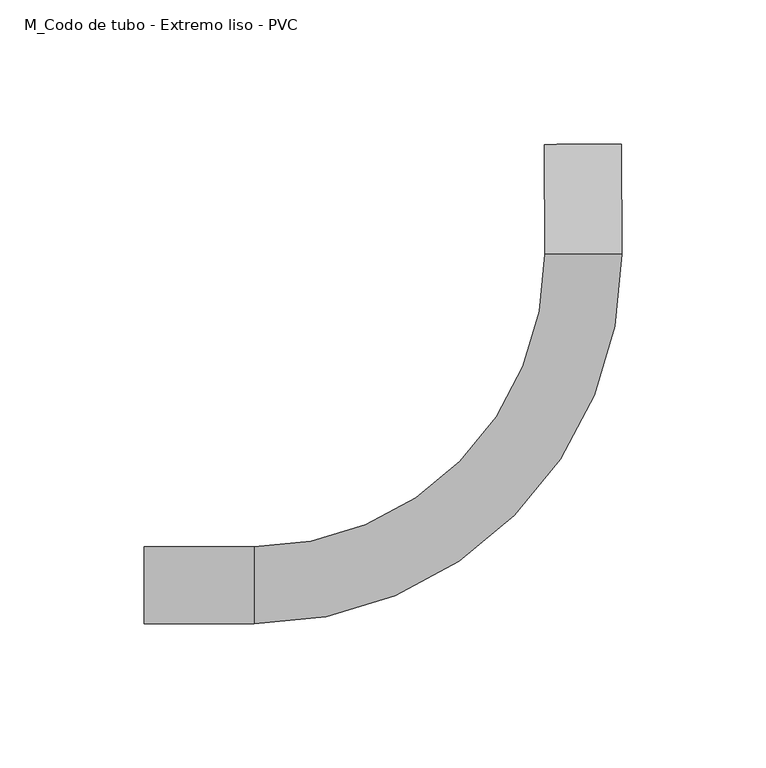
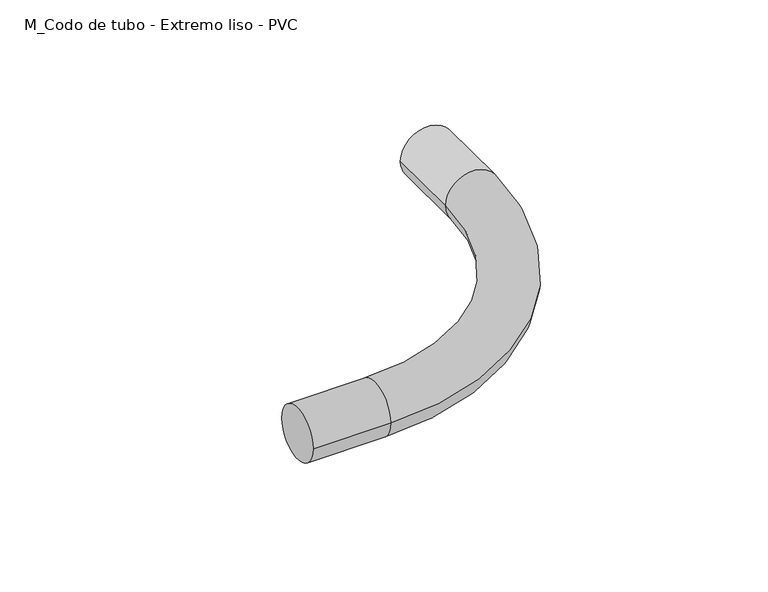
"""IFC4 building model written with IfcOpenShell, lengths in millimetres: cable carrier fitting geometry, M_Codo de tubo - Extremo liso - PVC : CODO POTENCIA."""

import ifcopenshell
import ifcopenshell.guid

model = None  # the IFC model being written
_history = None  # IfcOwnerHistory: only IFC2X3 demands one
_inside = {}  # id of a spatial element -> (the spatial element, [elements in it])
_under = {}  # id of a project, library or spatial element -> (it, [spatial elements below it])
_declared = {}  # id of a project -> (the project, [libraries it declares])
_typed = {}  # id of a type object -> (the type object, [elements of that type])
_made_of = {}  # id of a material, layer set ... -> (it, [elements and type objects made of it])


def new_model(schema):
    """Start an empty IFC model of exactly this schema.

    Asked for "IFC4X3", IfcOpenShell would pick the latest addendum, in which some entities
    have other attributes; the version numbers below select the first issue.
    IFC2X3 requires an IfcOwnerHistory on every rooted entity: one is made here for all.
    """
    global model, _history
    if schema == "IFC4X3":
        model = ifcopenshell.file(schema_version=(4, 3, 0, 0))
    else:
        model = ifcopenshell.file(schema=schema)
    _inside.clear()
    _under.clear()
    _declared.clear()
    _typed.clear()
    _made_of.clear()
    _history = None
    if model.schema == "IFC2X3":
        org = make("IfcOrganization", Name="unknown")
        user = make(
            "IfcPersonAndOrganization",
            ThePerson=make("IfcPerson", FamilyName="unknown"),
            TheOrganization=org,
        )
        app = make(
            "IfcApplication",
            ApplicationDeveloper=org,
            Version="unknown",
            ApplicationFullName="unknown",
            ApplicationIdentifier="unknown",
        )
        _history = make(
            "IfcOwnerHistory",
            OwningUser=user,
            OwningApplication=app,
            ChangeAction="ADDED",
            CreationDate=0,
        )
    return model


def make(cls, **values):
    """One entity of the class cls with the attributes given. An attribute that is None is left unset."""
    return model.create_entity(
        cls, **{name: value for name, value in values.items() if value is not None}
    )


def rooted(cls, **values):
    """An entity with a GlobalId (a new one), such as an element, a storey or a relation."""
    return make(cls, GlobalId=ifcopenshell.guid.new(), OwnerHistory=_history, **values)


def si_unit(unit_type, name, prefix=None):
    """IfcSIUnit, for example si_unit("LENGTHUNIT", "METRE", prefix="MILLI")."""
    return make("IfcSIUnit", UnitType=unit_type, Prefix=prefix, Name=name)


def assignment(units):
    """IfcUnitAssignment: the units of a project."""
    return None if units is None else make("IfcUnitAssignment", Units=units)


def point(xyz):
    """IfcCartesianPoint."""
    return None if xyz is None else make("IfcCartesianPoint", Coordinates=xyz)


def direction(xyz):
    """IfcDirection."""
    return None if xyz is None else make("IfcDirection", DirectionRatios=xyz)


def frame(location, z_axis=None, x_axis=None):
    """IfcAxis2Placement3D, a coordinate frame: its origin and axes. An axis left out is left unset."""
    return make(
        "IfcAxis2Placement3D",
        Location=point(location),
        Axis=direction(z_axis),
        RefDirection=direction(x_axis),
    )


def origin():
    """The frame at (0, 0, 0) with its axes left unset."""
    return frame((0.0, 0.0, 0.0))


def place(relative_to, where):
    """IfcLocalPlacement: puts the frame where relative to a parent placement (None: the world)."""
    return make(
        "IfcLocalPlacement", PlacementRelTo=relative_to, RelativePlacement=where
    )


def context(
    kind, dimensions, precision=None, world=None, true_north=None, identifier=None
):
    """IfcGeometricRepresentationContext, for example the 3D "Model" context."""
    return make(
        "IfcGeometricRepresentationContext",
        ContextIdentifier=identifier,
        ContextType=kind,
        CoordinateSpaceDimension=dimensions,
        Precision=precision,
        WorldCoordinateSystem=world,
        TrueNorth=true_north,
    )


def project(units=None, contexts=None):
    """IfcProject with its units and contexts."""
    return rooted(
        "IfcProject",
        Name="project",
        RepresentationContexts=contexts,
        UnitsInContext=assignment(units),
    )


def spatial(cls, under=None, at=None, **own):
    """A site, building, storey or space (cls), placed at a placement, below another one or the project."""
    s = rooted(cls, ObjectPlacement=at, **own)
    if under is not None:
        _under.setdefault(under.id(), (under, []))[1].append(s)
    return s


def circle_curve(where, radius):
    """IfcCircle in the frame where."""
    return make("IfcCircle", Position=where, Radius=radius)


def ellipse_curve(where, semi_axis1, semi_axis2):
    """IfcEllipse in the frame where."""
    return make(
        "IfcEllipse", Position=where, SemiAxis1=semi_axis1, SemiAxis2=semi_axis2
    )


def trimmed(basis, trim1, trim2, sense, master):
    """IfcTrimmedCurve: the piece of a basis curve between two trims."""
    return make(
        "IfcTrimmedCurve",
        BasisCurve=basis,
        Trim1=trim1,
        Trim2=trim2,
        SenseAgreement=sense,
        MasterRepresentation=master,
    )


def shape(context_of_items, identifier, shape_type, items):
    """IfcShapeRepresentation: the items that make up one representation, for example the "Body"."""
    return make(
        "IfcShapeRepresentation",
        ContextOfItems=context_of_items,
        RepresentationIdentifier=identifier,
        RepresentationType=shape_type,
        Items=items,
    )


def source(mapping_origin, context_of_items, identifier, shape_type, items):
    """IfcRepresentationMap: a shape defined once, which mapped items show again and again."""
    return make(
        "IfcRepresentationMap",
        MappingOrigin=mapping_origin,
        MappedRepresentation=shape(context_of_items, identifier, shape_type, items),
    )


def transform(
    local_origin,
    x_axis=None,
    y_axis=None,
    z_axis=None,
    scale=None,
    scale2=None,
    scale3=None,
    uniform=True,
):
    """IfcCartesianTransformationOperator3D, or its non-uniform kind. x_axis, y_axis, z_axis: its Axis1, 2, 3."""
    if uniform:
        return make(
            "IfcCartesianTransformationOperator3D",
            Axis1=direction(x_axis),
            Axis2=direction(y_axis),
            LocalOrigin=point(local_origin),
            Scale=scale,
            Axis3=direction(z_axis),
        )
    return make(
        "IfcCartesianTransformationOperator3DnonUniform",
        Axis1=direction(x_axis),
        Axis2=direction(y_axis),
        LocalOrigin=point(local_origin),
        Scale=scale,
        Axis3=direction(z_axis),
        Scale2=scale2,
        Scale3=scale3,
    )


def mapped(mapping_source, mapping_target):
    """IfcMappedItem: shows the shape of a source again, moved by a transform."""
    return make(
        "IfcMappedItem", MappingSource=mapping_source, MappingTarget=mapping_target
    )


def made_of(thing, what):
    """Note that an element or type object is made of a material, layer set ...; save() writes the relation."""
    if what is not None:
        _made_of.setdefault(what.id(), (what, []))[1].append(thing)
    return thing


def element(
    cls,
    number,
    at=None,
    inside=None,
    cuts=None,
    type_object=None,
    material=None,
    context=None,
    identifier="Body",
    shape_type=None,
    held_by="IfcProductDefinitionShape",
    body=None,
    shapes=None,
    **own,
):
    """One element of the class cls, such as IfcWall. Its Tag is "e" and its number.

    at: its placement. inside: the storey or other place that contains it. cuts: it is an
    opening in that element (IfcRelVoidsElement). A single representation is given by context,
    identifier, shape_type and body (its items); several are given by shapes. held_by: the class
    of the entity that holds the representations. save() writes the other relations.
    """
    e = rooted(cls, Tag="e%d" % number, ObjectPlacement=at, **own)
    if body is not None:
        shapes = [shape(context, identifier, shape_type, body)]
    if shapes is not None:
        e.Representation = make(held_by, Representations=shapes)
    if inside is not None:
        _inside.setdefault(inside.id(), (inside, []))[1].append(e)
    if cuts is not None:
        rooted(
            "IfcRelVoidsElement", RelatingBuildingElement=cuts, RelatedOpeningElement=e
        )
    if type_object is not None:
        _typed.setdefault(type_object.id(), (type_object, []))[1].append(e)
    return made_of(e, material)


def aggregate(whole, parts):
    """IfcRelAggregates: a whole, such as a stair, and the parts it consists of."""
    return rooted("IfcRelAggregates", RelatingObject=whole, RelatedObjects=parts)


def save(model, path):
    """Write the relations noted so far, then the file.

    IfcRelAggregates (storeys below a building ...), IfcRelContainedInSpatialStructure (elements
    in a storey), IfcRelDefinesByType, IfcRelAssociatesMaterial and IfcRelDeclares: one each for
    every whole, place, type object, material and project.
    """
    for whole, parts in _under.values():
        aggregate(whole, parts)
    for where, things in _inside.values():
        rooted(
            "IfcRelContainedInSpatialStructure",
            RelatedElements=things,
            RelatingStructure=where,
        )
    for kind, things in _typed.values():
        rooted("IfcRelDefinesByType", RelatedObjects=things, RelatingType=kind)
    for what, things in _made_of.values():
        rooted("IfcRelAssociatesMaterial", RelatedObjects=things, RelatingMaterial=what)
    for by, libraries in _declared.values():
        rooted("IfcRelDeclares", RelatingContext=by, RelatedDefinitions=libraries)
    model.write(path)


def plane_surface(at):
    """IfcPlane: the flat surface through the origin of the frame at, square to its z axis."""
    return make("IfcPlane", Position=at)


def cylinder_surface(at, radius):
    """IfcCylindricalSurface: all points at the distance radius from the z axis of the frame at."""
    return make("IfcCylindricalSurface", Position=at, Radius=radius)


def revolved_surface(curve, axis_point, axis_direction):
    """IfcSurfaceOfRevolution: the curve turned about the line through axis_point along axis_direction."""
    return make(
        "IfcSurfaceOfRevolution",
        SweptCurve=make("IfcArbitraryOpenProfileDef", ProfileType="CURVE", Curve=curve),
        AxisPosition=make("IfcAxis1Placement", Location=point(axis_point), Axis=direction(axis_direction)),
    )


def advanced_brep(points, edges, surfaces, faces):
    """IfcAdvancedBrep: a solid bounded by faces that lie on surfaces and meet in shared edges.

    An edge is (start, end): straight between two places in points (the first is 0);
    or (start, end, curve); or (start, end, curve, False) where it runs against its curve.
    A face is (place in surfaces, loops), or (place, loops, False) where it looks against
    its surface's normal. A loop lists edges by number (the first is 1), with a minus sign
    where the edge is run from its end to its start. The first loop is the outer one.
    """
    corners = [point(p) for p in points]
    vertices = [make("IfcVertexPoint", VertexGeometry=c) for c in corners]
    made = []
    for start, end, *more in edges:
        made.append(
            make(
                "IfcEdgeCurve",
                EdgeStart=vertices[start],
                EdgeEnd=vertices[end],
                EdgeGeometry=more[0] if more else make("IfcPolyline", Points=[corners[start], corners[end]]),
                SameSense=more[1] if len(more) > 1 else True,
            )
        )
    hull = []
    for where, loops, *sense in faces:
        bounds = []
        for j, loop in enumerate(loops):
            ring = [make("IfcOrientedEdge", EdgeElement=made[abs(k) - 1], Orientation=k > 0) for k in loop]
            bounds.append(
                make(
                    "IfcFaceOuterBound" if j == 0 else "IfcFaceBound",
                    Bound=make("IfcEdgeLoop", EdgeList=ring),
                    Orientation=True,
                )
            )
        hull.append(make("IfcAdvancedFace", Bounds=bounds, FaceSurface=surfaces[where], SameSense=sense[0] if sense else True))
    return make("IfcAdvancedBrep", Outer=make("IfcClosedShell", CfsFaces=hull))


def m_codo_de_tubo_extremo_liso_pvc_17dd3af1(model_context):
    return source(origin(), model_context, "Body", "AdvancedBrep", [
        advanced_brep(
        [(-152.9249847, -13.335, 0.0), (-152.9249847, 13.335, 0.0), (-114.8249847, -13.335, 0.0), (-114.8249847, 13.335, 0.0), (-13.8610448, 114.7626715, 0.0), (12.8086752, 114.8848866, 0.0), (12.6340822, 152.9844866, 0.0), (-14.0356378, 152.8622715, 0.0)],
        [
            (0, 1, circle_curve(frame((-152.9249847, 0.0, 0.0), z_axis=(-1.0, 0.0, 0.0), x_axis=(0.0, 1.0, 0.0)), 13.335)),
            (1, 0, circle_curve(frame((-152.9249847, 0.0, 0.0), z_axis=(-1.0, 0.0, 0.0), x_axis=(0.0, 1.0, 0.0)), 13.335)),
            (0, 2),
            (2, 3, circle_curve(frame((-114.8249847, 0.0, 0.0), z_axis=(-1.0, 0.0, 0.0), x_axis=(0.0, 1.0, 0.0)), 13.335)),
            (3, 1),
            (3, 2, circle_curve(frame((-114.8249847, 0.0, 0.0), z_axis=(-1.0, 0.0, 0.0), x_axis=(0.0, 1.0, 0.0)), 13.335)),
            (4, 3, circle_curve(frame((-114.8249847, 114.3, 0.0), z_axis=(0.0, 0.0, -1.0), x_axis=(0.0, -1.0, 0.0)), 100.965)),
            (2, 5, circle_curve(frame((-114.8249847, 114.3, 0.0), z_axis=(0.0, 0.0, 1.0), x_axis=(0.0, -1.0, 0.0)), 127.635)),
            (5, 4, circle_curve(frame((-0.5261848, 114.8237791, 0.0), z_axis=(0.004582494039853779, -0.9999895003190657, 0.0), x_axis=(-0.9999895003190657, -0.004582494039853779, 0.0)), 13.335)),
            (4, 5, circle_curve(frame((-0.5261848, 114.8237791, 0.0), z_axis=(0.004582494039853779, -0.9999895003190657, 0.0), x_axis=(-0.9999895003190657, -0.004582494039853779, 0.0)), 13.335)),
            (6, 7, circle_curve(frame((-0.7007778, 152.923379, 0.0), z_axis=(-0.004582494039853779, 0.9999895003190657, 0.0), x_axis=(-0.9999895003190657, -0.004582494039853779, 0.0)), 13.335)),
            (7, 6, circle_curve(frame((-0.7007778, 152.923379, 0.0), z_axis=(-0.004582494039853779, 0.9999895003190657, 0.0), x_axis=(-0.9999895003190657, -0.004582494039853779, 0.0)), 13.335)),
            (5, 6),
            (7, 4),
        ],
        [
            plane_surface(frame((-152.9249847, 0.0, 0.0), z_axis=(-1.0, 0.0, 0.0), x_axis=(0.0, 0.0, 1.0))),
            cylinder_surface(frame((-152.9249847, 0.0, 0.0), z_axis=(-1.0, 0.0, 0.0), x_axis=(0.0, 1.0, 0.0)), 13.335),
            revolved_surface(trimmed(ellipse_curve(frame((-114.8249847, 0.0, 0.0), z_axis=(-1.0, 0.0, 0.0), x_axis=(0.0, 1.0, 0.0)), 13.335, 13.335), [point((-114.8249847, -13.335, 0.0))], [point((-114.8249847, 13.335, 0.0))], True, "CARTESIAN"), (-114.8249847, 114.3, 0.0), (0.0, 0.0, 1.0)),
            revolved_surface(trimmed(ellipse_curve(frame((-114.8249847, 0.0, 0.0), z_axis=(-1.0, 0.0, 0.0), x_axis=(0.0, 1.0, 0.0)), 13.335, 13.335), [point((-114.8249847, 13.335, 0.0))], [point((-114.8249847, -13.335, 0.0))], True, "CARTESIAN"), (-114.8249847, 114.3, 0.0), (0.0, 0.0, 1.0)),
            plane_surface(frame((-0.7007778, 152.923379, 0.0), z_axis=(-0.004582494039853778, 0.9999895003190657, 0.0), x_axis=(0.0, 0.0, 1.0))),
            cylinder_surface(frame((-0.5261848, 114.8237791, 0.0), z_axis=(0.004582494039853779, -0.9999895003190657, 0.0), x_axis=(-0.9999895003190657, -0.004582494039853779, 0.0)), 13.335),
        ],
        [
            (0, [[1, 2]]),
            (1, [[-1, 3, 4, 5]]),
            (1, [[-2, -5, 6, -3]]),
            (2, [[7, -4, 8, 9]]),
            (3, [[-8, -6, -7, 10]]),
            (4, [[11, 12]]),
            (5, [[-9, 13, -12, 14]]),
            (5, [[-10, -14, -11, -13]]),
        ],
    ),
    ])


if __name__ == "__main__":
    model = new_model("IFC4")
    model_context = context("Model", 3, world=origin())
    ifc_project = project(units=[si_unit("LENGTHUNIT", "METRE", prefix="MILLI")], contexts=[model_context])
    site = spatial("IfcSite", under=ifc_project)
    building = spatial("IfcBuilding", under=site)
    placement = place(None, origin())
    m_codo_de_tubo_extremo_liso_pvc_shape = m_codo_de_tubo_extremo_liso_pvc_17dd3af1(model_context)
    element("IfcCableCarrierFitting", 1, ObjectType="M_Codo de tubo - Extremo liso - PVC : CODO POTENCIA", at=placement, inside=building, context=model_context, shape_type="MappedRepresentation", body=[
        mapped(m_codo_de_tubo_extremo_liso_pvc_shape, transform((0.0, 0.0, 0.0), x_axis=(1.0, 0.0, 0.0), y_axis=(0.0, 1.0, 0.0), z_axis=(0.0, 0.0, 1.0))),
    ])
    save(model, "model.ifc")
